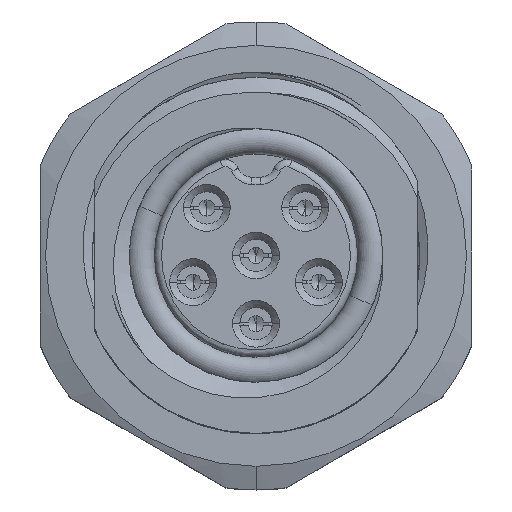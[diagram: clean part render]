
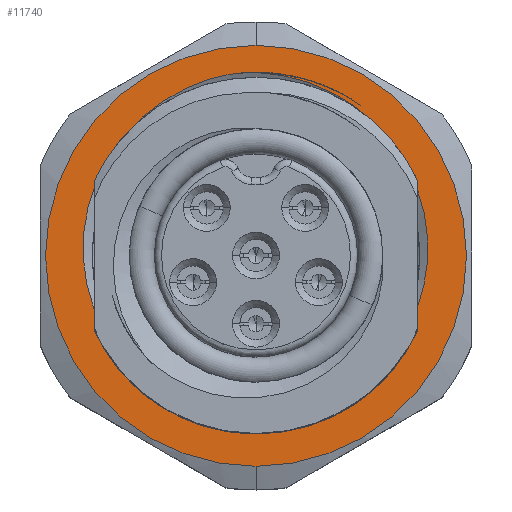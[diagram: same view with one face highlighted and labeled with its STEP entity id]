
A CAD part, top view. The second image highlights one B-rep face of the part: STEP entity #11740.
In plain terms, the highlighted planar face has unit normal (0, 0, 1).
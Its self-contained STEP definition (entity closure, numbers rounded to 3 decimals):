
#1496=CARTESIAN_POINT('',(0.,0.,-7.047));
#1497=DIRECTION('',(0.,0.,1.));
#1498=DIRECTION('',(0.,-1.,0.));
#1499=AXIS2_PLACEMENT_3D('',#1496,#1497,#1498);
#1501=CARTESIAN_POINT('',(0.,0.,-7.047));
#1502=DIRECTION('',(0.,0.,1.));
#1503=DIRECTION('',(0.,1.,0.));
#1504=AXIS2_PLACEMENT_3D('',#1501,#1502,#1503);
#1506=DIRECTION('',(0.,1.,0.));
#1507=VECTOR('',#1506,0.582);
#1508=CARTESIAN_POINT('',(-4.5,-2.062,-7.047));
#1509=LINE('',#1508,#1507);
#1510=CARTESIAN_POINT('',(0.,0.,-7.047));
#1511=DIRECTION('',(0.,0.,-1.));
#1512=DIRECTION('',(0.603,-0.798,0.));
#1513=AXIS2_PLACEMENT_3D('',#1510,#1511,#1512);
#1515=DIRECTION('',(0.,-1.,0.));
#1516=VECTOR('',#1515,0.381);
#1517=CARTESIAN_POINT('',(4.5,-1.392,-7.047));
#1518=LINE('',#1517,#1516);
#1519=CARTESIAN_POINT('',(-0.013,5.098,
-7.047));
#1520=CARTESIAN_POINT('',(0.248,5.088,
-7.047));
#1521=CARTESIAN_POINT('',(0.762,5.029,
-7.047));
#1522=CARTESIAN_POINT('',(1.525,4.818,-7.047));
#1523=CARTESIAN_POINT('',(2.239,4.495,-7.047));
#1524=CARTESIAN_POINT('',(2.89,4.068,-7.047));
#1525=CARTESIAN_POINT('',(3.465,3.545,-7.047));
#1526=CARTESIAN_POINT('',(3.948,2.944,-7.047));
#1527=CARTESIAN_POINT('',(4.33,2.278,-7.047));
#1528=CARTESIAN_POINT('',(4.602,1.563,-7.047));
#1529=CARTESIAN_POINT('',(4.758,0.819,
-7.047));
#1530=CARTESIAN_POINT('',(4.795,0.063,
-7.047));
#1531=CARTESIAN_POINT('',(4.712,-0.689,
-7.047));
#1532=CARTESIAN_POINT('',(4.583,-1.161,-7.047));
#1533=CARTESIAN_POINT('',(4.5,-1.392,-7.047));
#1535=CARTESIAN_POINT('',(-0.75,5.042,
-7.047));
#1536=CARTESIAN_POINT('',(-0.667,5.058,
-7.047));
#1537=CARTESIAN_POINT('',(-0.5,5.08,
-7.047));
#1538=CARTESIAN_POINT('',(-0.254,5.098,
-7.047));
#1539=CARTESIAN_POINT('',(-0.093,5.101,
-7.047));
#1540=CARTESIAN_POINT('',(-0.013,5.098,
-7.047));
#1542=CARTESIAN_POINT('',(-4.5,-1.481,-7.047));
#1543=CARTESIAN_POINT('',(-4.589,-1.244,-7.047));
#1544=CARTESIAN_POINT('',(-4.729,-0.763,
-7.047));
#1545=CARTESIAN_POINT('',(-4.824,-0.002,
-7.047));
#1546=CARTESIAN_POINT('',(-4.795,0.77,
-7.047));
#1547=CARTESIAN_POINT('',(-4.644,1.532,
-7.047));
#1548=CARTESIAN_POINT('',(-4.374,2.259,
-7.047));
#1549=CARTESIAN_POINT('',(-3.988,2.941,
-7.047));
#1550=CARTESIAN_POINT('',(-3.496,3.559,
-7.047));
#1551=CARTESIAN_POINT('',(-2.915,4.088,
-7.047));
#1552=CARTESIAN_POINT('',(-2.25,4.525,
-7.047));
#1553=CARTESIAN_POINT('',(-1.515,4.855,
-7.047));
#1554=CARTESIAN_POINT('',(-1.01,4.993,
-7.047));
#1555=CARTESIAN_POINT('',(-0.75,5.042,
-7.047));
#3273=CARTESIAN_POINT('',(2.986,-3.948,-7.047));
#3274=CARTESIAN_POINT('',(3.164,-3.801,-7.047));
#3275=CARTESIAN_POINT('',(3.493,-3.489,-7.047));
#3276=CARTESIAN_POINT('',(3.914,-2.964,-7.047));
#3277=CARTESIAN_POINT('',(4.252,-2.397,-7.047));
#3278=CARTESIAN_POINT('',(4.426,-1.987,-7.047));
#3279=CARTESIAN_POINT('',(4.5,-1.773,-7.047));
#9320=CARTESIAN_POINT('',(-4.5,-2.062,-7.047));
#9321=CARTESIAN_POINT('',(-4.5,-1.481,-7.047));
#9322=VERTEX_POINT('',#9320);
#9323=VERTEX_POINT('',#9321);
#9452=CARTESIAN_POINT('',(4.5,-1.392,-7.047));
#9453=CARTESIAN_POINT('',(4.5,-1.773,-7.047));
#9454=VERTEX_POINT('',#9452);
#9455=VERTEX_POINT('',#9453);
#9577=VERTEX_POINT('',#3273);
#10174=CARTESIAN_POINT('',(0.,-5.85,-7.047));
#10175=CARTESIAN_POINT('',(0.,5.85,-7.047));
#10176=VERTEX_POINT('',#10174);
#10177=VERTEX_POINT('',#10175);
#10188=VERTEX_POINT('',#1519);
#10189=VERTEX_POINT('',#1535);
#11714=CARTESIAN_POINT('',(0.,0.,-7.047));
#11715=DIRECTION('',(0.,0.,1.));
#11716=DIRECTION('',(1.,0.,0.));
#11717=AXIS2_PLACEMENT_3D('',#11714,#11715,#11716);
#11718=PLANE('',#11717);
#11720=ORIENTED_EDGE('',*,*,#11719,.F.);
#11722=ORIENTED_EDGE('',*,*,#11721,.F.);
#11723=EDGE_LOOP('',(#11720,#11722));
#11724=FACE_OUTER_BOUND('',#11723,.F.);
#11725=ORIENTED_EDGE('',*,*,#11504,.F.);
#11727=ORIENTED_EDGE('',*,*,#11726,.F.);
#11729=ORIENTED_EDGE('',*,*,#11728,.T.);
#11731=ORIENTED_EDGE('',*,*,#11730,.F.);
#11733=ORIENTED_EDGE('',*,*,#11732,.F.);
#11735=ORIENTED_EDGE('',*,*,#11734,.F.);
#11737=ORIENTED_EDGE('',*,*,#11736,.F.);
#11738=EDGE_LOOP('',(#11725,#11727,#11729,#11731,#11733,#11735,#11737));
#11739=FACE_BOUND('',#11738,.F.);
#11740=ADVANCED_FACE('',(#11724,#11739),#11718,.T.);
#1500=CIRCLE('',#1499,5.85);
#1505=CIRCLE('',#1504,5.85);
#1514=CIRCLE('',#1513,4.95);
#1534=B_SPLINE_CURVE_WITH_KNOTS('',3,(#1519,#1520,#1521,#1522,#1523,#1524,#1525,
#1526,#1527,#1528,#1529,#1530,#1531,#1532,#1533),.UNSPECIFIED.,.F.,.F.,(4,1,1,1,
1,1,1,1,1,1,1,1,4),(0.,0.083,0.167,0.25,
0.333,0.417,0.5,0.583,0.667,
0.75,0.833,0.917,1.),.UNSPECIFIED.);
#1541=B_SPLINE_CURVE_WITH_KNOTS('',3,(#1535,#1536,#1537,#1538,#1539,#1540),
.UNSPECIFIED.,.F.,.F.,(4,1,1,4),(0.,0.333,0.667,1.),
.UNSPECIFIED.);
#1556=B_SPLINE_CURVE_WITH_KNOTS('',3,(#1542,#1543,#1544,#1545,#1546,#1547,#1548,
#1549,#1550,#1551,#1552,#1553,#1554,#1555),.UNSPECIFIED.,.F.,.F.,(4,1,1,1,1,1,1,
1,1,1,1,4),(0.,0.091,0.182,0.273,
0.364,0.455,0.545,0.636,
0.727,0.818,0.909,1.),.UNSPECIFIED.);
#3280=B_SPLINE_CURVE_WITH_KNOTS('',3,(#3273,#3274,#3275,#3276,#3277,#3278,
#3279),.UNSPECIFIED.,.F.,.F.,(4,1,1,1,4),(0.,0.25,0.5,0.75,1.),
.UNSPECIFIED.);
#11504=EDGE_CURVE('',#9322,#9323,#1509,.T.);
#11719=EDGE_CURVE('',#10176,#10177,#1500,.T.);
#11721=EDGE_CURVE('',#10177,#10176,#1505,.T.);
#11726=EDGE_CURVE('',#9577,#9322,#1514,.T.);
#11728=EDGE_CURVE('',#9577,#9455,#3280,.T.);
#11730=EDGE_CURVE('',#9454,#9455,#1518,.T.);
#11732=EDGE_CURVE('',#10188,#9454,#1534,.T.);
#11734=EDGE_CURVE('',#10189,#10188,#1541,.T.);
#11736=EDGE_CURVE('',#9323,#10189,#1556,.T.);
